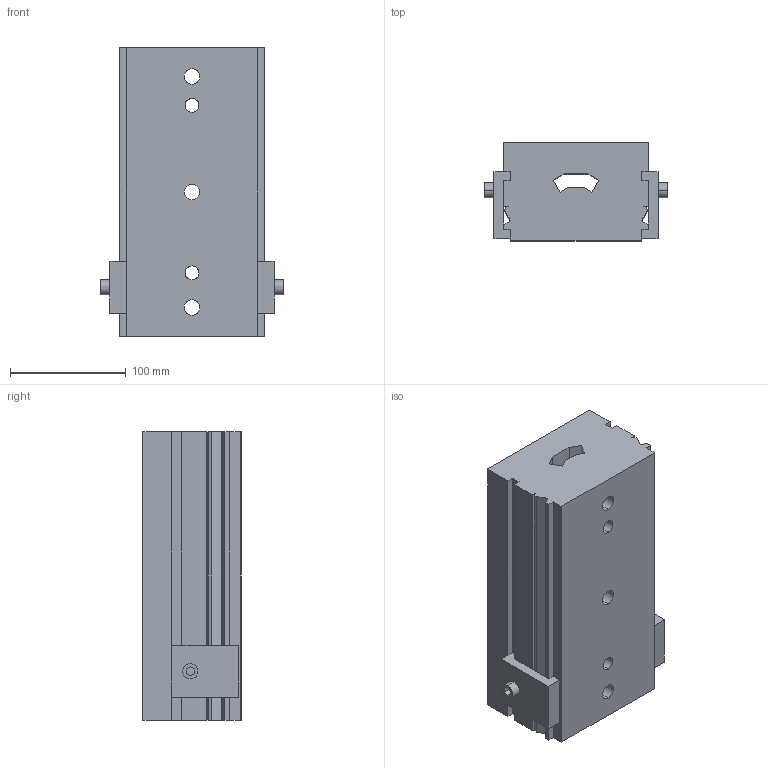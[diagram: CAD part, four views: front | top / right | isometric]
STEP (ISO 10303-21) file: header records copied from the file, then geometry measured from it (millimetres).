
FILE_DESCRIPTION(('CATIA V5 STEP Exchange'),'2;1');
FILE_NAME('C:\Users\Raffaele\Desktop\3D X SITO CF\A945-03\GSB_OILLESS_G24503122501BC\A945-03-1225-01-S-BC.stp','2019-07-11T09:54:37+00:00',('none'),('none'),'CATIA Version 5 Release 20 GA (IN-10)','CATIA V5 STEP AP203','none');
FILE_SCHEMA(('CONFIG_CONTROL_DESIGN'));
Length unit declared in the file: millimetre
Products named in the file (1): A945-03-1225-01-S-BC
Bounding box: 158 x 85 x 250 mm (x, y, z)
Volume: 2484847.4 mm3; surface area: 177711.5 mm2
Topology: 1 solids, 1 shells, 104 faces, 342 edges, 240 vertices
Faces by surface type: plane 80, cylinder 24
Entity records: 4048 total; most frequent: CARTESIAN_POINT 967, ORIENTED_EDGE 684, DIRECTION 530, EDGE_CURVE 342, VECTOR 246, LINE 246, VERTEX_POINT 240, AXIS2_PLACEMENT_3D 181
